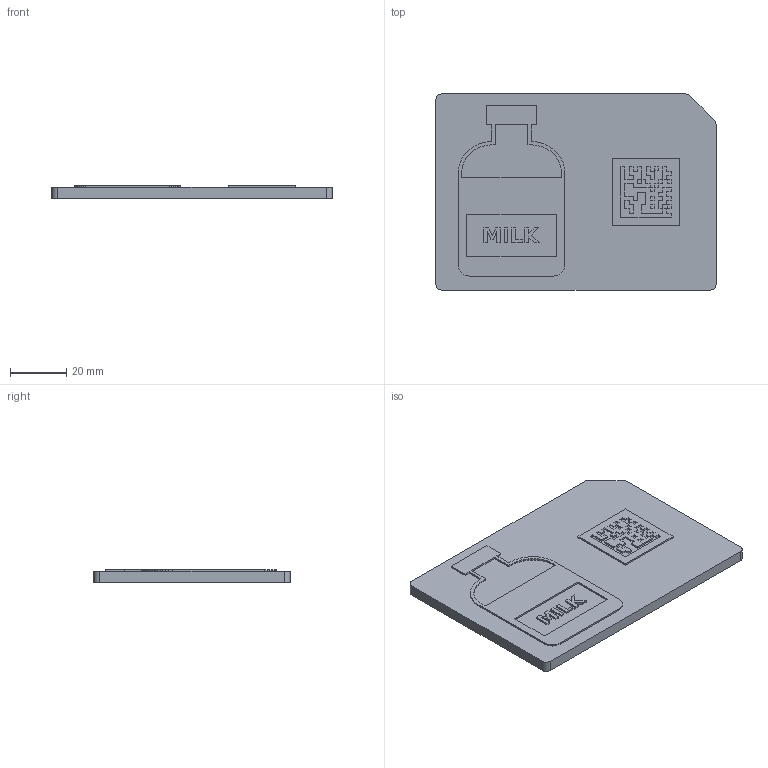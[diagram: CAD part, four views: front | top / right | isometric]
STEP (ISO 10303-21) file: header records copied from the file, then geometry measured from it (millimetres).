
FILE_DESCRIPTION(('Open CASCADE Model'),'2;1');
FILE_NAME('Open CASCADE Shape Model','2026-10-14T18:10:00',('Author'),( 'Open CASCADE'),'Open CASCADE STEP processor 7.9','Open CASCADE 7.9' ,'Unknown');
FILE_SCHEMA(('AUTOMOTIVE_DESIGN { 1 0 10303 214 1 1 1 1 }'));
Length unit declared in the file: millimetre
Products named in the file (3): SN-4821; SN-4821_base_dark; SN-4821_features_red
Assembly tree (2 placements, depth 2):
  SN-4821
    SN-4821_base_dark
    SN-4821_features_red
Bounding box: 100 x 70 x 4.6 mm (x, y, z)
Volume: 28686.8 mm3; surface area: 20028.4 mm2
Topology: 8 solids, 8 shells, 561 faces, 1572 edges, 1048 vertices
Faces by surface type: plane 556, cylinder 5
Entity records: 37752 total; most frequent: CARTESIAN_POINT 6854, DIRECTION 5338, LINE 4182, VECTOR 4182, ORIENTED_EDGE 3144, PCURVE 3144, DEFINITIONAL_REPRESENTATION 3144, EDGE_CURVE 1572
